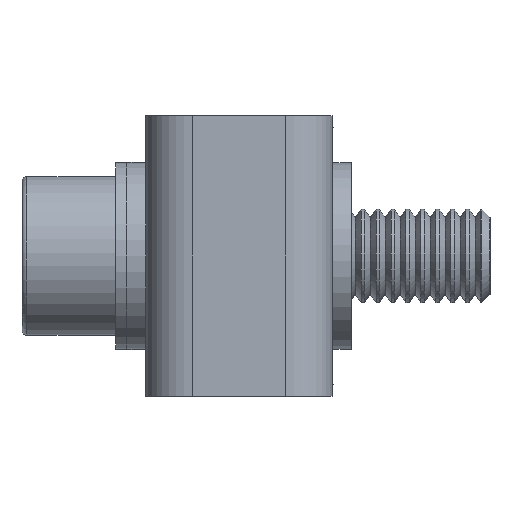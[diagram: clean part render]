
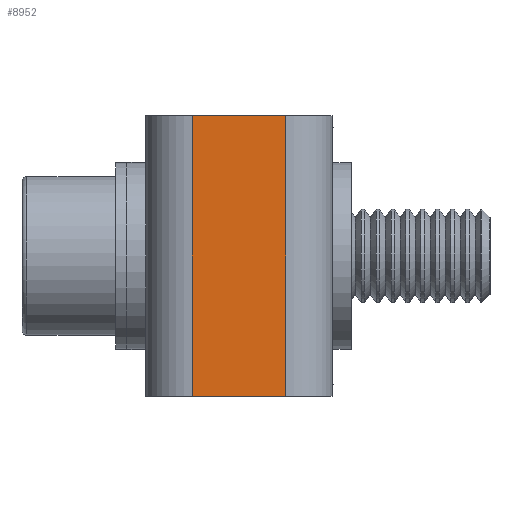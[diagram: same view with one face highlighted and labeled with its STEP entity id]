
A CAD part, left-side view. The second image highlights one B-rep face of the part: STEP entity #8952.
In plain terms, the highlighted planar face has unit normal (-1, 0, 0).
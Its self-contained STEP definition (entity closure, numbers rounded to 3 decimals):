
#222 = VECTOR ( 'NONE', #6529, 1000. ) ;
#413 = VECTOR ( 'NONE', #4041, 1000. ) ;
#684 = ORIENTED_EDGE ( 'NONE', *, *, #6423, .F. ) ;
#1125 = ORIENTED_EDGE ( 'NONE', *, *, #12282, .T. ) ;
#2268 = CARTESIAN_POINT ( 'NONE',  ( -31.75, -1.5, 7.5 ) ) ;
#3291 = CARTESIAN_POINT ( 'NONE',  ( -31.75, 6., 7.5 ) ) ;
#3428 = VERTEX_POINT ( 'NONE', #7656 ) ;
#3685 = DIRECTION ( 'NONE',  ( 0., -1., 0. ) ) ;
#3965 = VERTEX_POINT ( 'NONE', #8541 ) ;
#4020 = ORIENTED_EDGE ( 'NONE', *, *, #10430, .F. ) ;
#4041 = DIRECTION ( 'NONE',  ( 0., 0., -1. ) ) ;
#4879 = LINE ( 'NONE', #10795, #11951 ) ;
#5232 = EDGE_LOOP ( 'NONE', ( #5382, #1125, #4020, #684 ) ) ;
#5382 = ORIENTED_EDGE ( 'NONE', *, *, #6696, .T. ) ;
#6184 = VERTEX_POINT ( 'NONE', #12576 ) ;
#6423 = EDGE_CURVE ( 'NONE', #11484, #3428, #10501, .T. ) ;
#6529 = DIRECTION ( 'NONE',  ( 0., 0., -1. ) ) ;
#6696 = EDGE_CURVE ( 'NONE', #11484, #6184, #8461, .T. ) ;
#7656 = CARTESIAN_POINT ( 'NONE',  ( -31.75, 1., 7.5 ) ) ;
#8059 = CARTESIAN_POINT ( 'NONE',  ( -31.75, 1., 7.5 ) ) ;
#8079 = DIRECTION ( 'NONE',  ( 0., -1., 0. ) ) ;
#8348 = DIRECTION ( 'NONE',  ( 1., 0., 0. ) ) ;
#8461 = LINE ( 'NONE', #11559, #222 ) ;
#8541 = CARTESIAN_POINT ( 'NONE',  ( -31.75, 1., -7.5 ) ) ;
#8952 = ADVANCED_FACE ( 'NONE', ( #11064 ), #9373, .F. ) ;
#9373 = PLANE ( 'NONE',  #11498 ) ;
#10430 = EDGE_CURVE ( 'NONE', #3428, #3965, #10727, .T. ) ;
#10501 = LINE ( 'NONE', #11611, #11446 ) ;
#10727 = LINE ( 'NONE', #8059, #413 ) ;
#10795 = CARTESIAN_POINT ( 'NONE',  ( -31.75, -1.5, -7.5 ) ) ;
#11064 = FACE_OUTER_BOUND ( 'NONE', #5232, .T. ) ;
#11307 = DIRECTION ( 'NONE',  ( 0., 0., -1. ) ) ;
#11446 = VECTOR ( 'NONE', #8079, 1000. ) ;
#11484 = VERTEX_POINT ( 'NONE', #3291 ) ;
#11498 = AXIS2_PLACEMENT_3D ( 'NONE', #2268, #8348, #11307 ) ;
#11559 = CARTESIAN_POINT ( 'NONE',  ( -31.75, 6., 7.5 ) ) ;
#11611 = CARTESIAN_POINT ( 'NONE',  ( -31.75, -1.5, 7.5 ) ) ;
#11951 = VECTOR ( 'NONE', #3685, 1000. ) ;
#12282 = EDGE_CURVE ( 'NONE', #6184, #3965, #4879, .T. ) ;
#12576 = CARTESIAN_POINT ( 'NONE',  ( -31.75, 6., -7.5 ) ) ;
